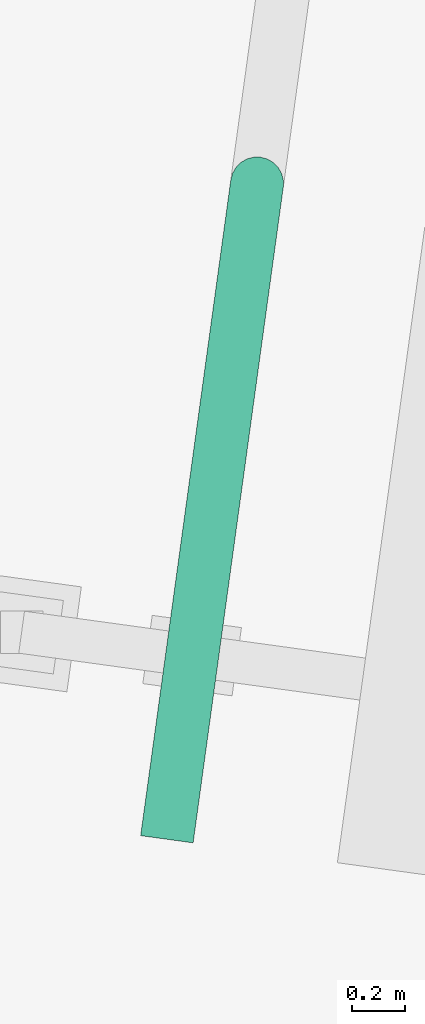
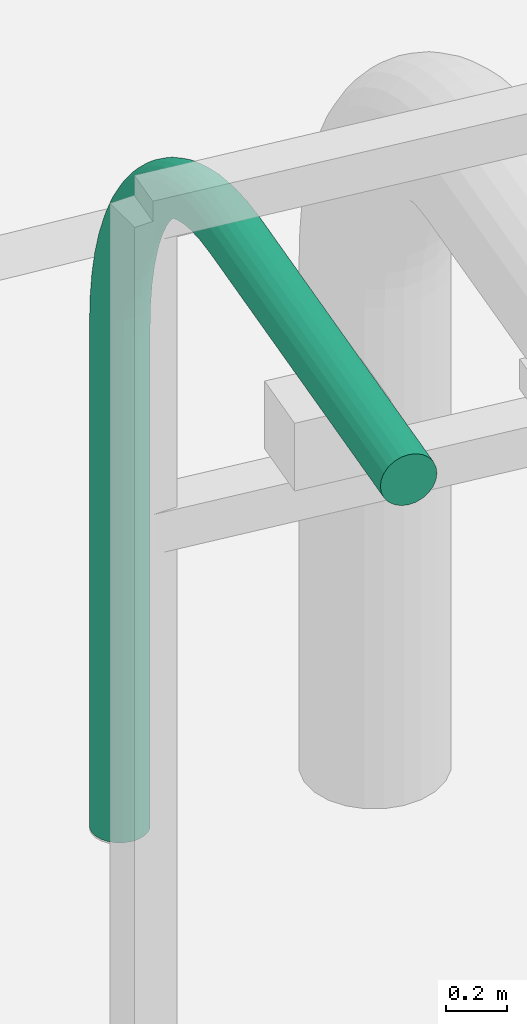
# Not in any storey, part 27 of 75: 1 pipe segment.
"""IFC4 model written with IfcOpenShell, lengths in metres."""

from ifc_helpers import new_model, si_unit, direction, origin, origin_with_axes, place, context, subcontext, project, spatial, triangles, element, save


model = new_model("IFC4")

# Units and contexts
model_context = context("Model", 3, precision=1e-05, world=origin_with_axes(), true_north=direction((0.0, 1.0)))
body_context = subcontext(model_context, "Body", "Model", "MODEL_VIEW")
ifc_project = project(units=[si_unit("AREAUNIT", "SQUARE_METRE"), si_unit("VOLUMEUNIT", "CUBIC_METRE"), si_unit("LENGTHUNIT", "METRE")], contexts=[model_context])

# Site
site_placement = place(None, origin_with_axes())
site = spatial("IfcSite", under=ifc_project, at=site_placement, Name="Parcela industrial Jinhong")

# Pipe segment
pipe_segment_placement = place(None, origin())
element("IfcPipeSegment", 1, at=pipe_segment_placement, inside=site, Name="Nitrógeno Ø 0,2 m · salida exterior", ObjectType="Nitrógeno Ø 0,2 m · salida exterior", PredefinedType="USERDEFINED", context=body_context, shape_type="Tessellation", body=[
    triangles([(51.184012, -13.780024, 0.917728), (51.184161, -13.753919, 0.917728), (51.177549, -13.728665, 0.917728), (51.164626, -13.705983, 0.917728), (51.146273, -13.687418, 0.917728), (51.123741, -13.674236, 0.917728), (51.098564, -13.667335, 0.917728), (51.072459, -13.667186, 0.917728), (51.047205, -13.673798, 0.917728), (51.024523, -13.686721, 0.917728), (51.005958, -13.705074, 0.917728), (50.992777, -13.727606, 0.917728), (50.985876, -13.752783, 0.917728), (50.985726, -13.778888, 0.917728), (50.992338, -13.804142, 0.917728), (51.005261, -13.826824, 0.917728), (51.023614, -13.845389, 0.917728), (51.046147, -13.858571, 0.917728), (51.071323, -13.865471, 0.917728), (51.097428, -13.865621, 0.917728), (51.122682, -13.859009, 0.917728), (51.145364, -13.846086, 0.917728), (51.163929, -13.827733, 0.917728), (51.177111, -13.8052, 0.917728), (51.184012, -13.780024, 2.917728), (51.184161, -13.753919, 2.917788), (51.177549, -13.728665, 2.917843), (51.164626, -13.705983, 2.917891), (51.146273, -13.687418, 2.917927), (51.123741, -13.674236, 2.91795), (51.098564, -13.667336, 2.917958), (51.072459, -13.667186, 2.91795), (51.047205, -13.673798, 2.917927), (51.024523, -13.686721, 2.917891), (51.005958, -13.705074, 2.917843), (50.992777, -13.727606, 2.917788), (50.985876, -13.752783, 2.917728), (50.985726, -13.778888, 2.917669), (50.992338, -13.804142, 2.917614), (51.005261, -13.826824, 2.917566), (51.023614, -13.845388, 2.91753), (51.046147, -13.85857, 2.917507), (51.071323, -13.865471, 2.917499), (51.097428, -13.865621, 2.917507), (51.122682, -13.859009, 2.91753), (51.145364, -13.846086, 2.917566), (51.163929, -13.827733, 2.917614), (51.177111, -13.8052, 2.917669), (51.183356, -13.784794, 3.015746), (51.183489, -13.758813, 3.018282), (51.176861, -13.733674, 3.020646), (51.163924, -13.71109, 3.022676), (51.145561, -13.692602, 3.024234), (51.123021, -13.679467, 3.025213), (51.097843, -13.672583, 3.025547), (51.07174, -13.672417, 3.025213), (51.046493, -13.678981, 3.024234), (51.023821, -13.691828, 3.022676), (51.00527, -13.710083, 3.020646), (50.992104, -13.7325, 3.018282), (50.98522, -13.757553, 3.015746), (50.985087, -13.783535, 3.013209), (50.991715, -13.808674, 3.010845), (51.004651, -13.831257, 3.008815), (51.023015, -13.849746, 3.007257), (51.045554, -13.86288, 3.006278), (51.070733, -13.869765, 3.005944), (51.096836, -13.869931, 3.006278), (51.122083, -13.863366, 3.007257), (51.144755, -13.850519, 3.008815), (51.163306, -13.832265, 3.010845), (51.176472, -13.809847, 3.013209), (51.181395, -13.799059, 3.112819), (51.181476, -13.773447, 3.117868), (51.174801, -13.748652, 3.122573), (51.161824, -13.726364, 3.126614), (51.14343, -13.708102, 3.129714), (51.120871, -13.695111, 3.131663), (51.095685, -13.688275, 3.132328), (51.069589, -13.68806, 3.131663), (51.044362, -13.694482, 3.129714), (51.021721, -13.707102, 3.126614), (51.00321, -13.725061, 3.122573), (50.990092, -13.747135, 3.117868), (50.983259, -13.771819, 3.112819), (50.983177, -13.797431, 3.107769), (50.989852, -13.822226, 3.103064), (51.002829, -13.844514, 3.099024), (51.021224, -13.862776, 3.095923), (51.043782, -13.875768, 3.093974), (51.068968, -13.882604, 3.09331), (51.095064, -13.882818, 3.093974), (51.120292, -13.876396, 3.095923), (51.142932, -13.863776, 3.099024), (51.161443, -13.845817, 3.103064), (51.174562, -13.823743, 3.107769), (51.178147, -13.822682, 3.208013), (51.178145, -13.797681, 3.215526), (51.171391, -13.773456, 3.222527), (51.158347, -13.751658, 3.228539), (51.139901, -13.733771, 3.233153), (51.117309, -13.721015, 3.236052), (51.092113, -13.71426, 3.237042), (51.066028, -13.713965, 3.236052), (51.040832, -13.72015, 3.233153), (51.018243, -13.732395, 3.228539), (50.9998, -13.749865, 3.222527), (50.98676, -13.771369, 3.215526), (50.980011, -13.795441, 3.208013), (50.980013, -13.820442, 3.2005), (50.986766, -13.844667, 3.193499), (50.999811, -13.866466, 3.187487), (51.018257, -13.884353, 3.182874), (51.040848, -13.897108, 3.179974), (51.066045, -13.903864, 3.178985), (51.09213, -13.904159, 3.179974), (51.117325, -13.897973, 3.182874), (51.139914, -13.885728, 3.187487), (51.158357, -13.868258, 3.193499), (51.171398, -13.846755, 3.2005), (51.173644, -13.855435, 3.300412), (51.173525, -13.831282, 3.310316), (51.166663, -13.807847, 3.319546), (51.153525, -13.786726, 3.327472), (51.135008, -13.76936, 3.333553), (51.112371, -13.756931, 3.337376), (51.087159, -13.750288, 3.33868), (51.06109, -13.749881, 3.337376), (51.035939, -13.75574, 3.333553), (51.013422, -13.767464, 3.327472), (50.995072, -13.784255, 3.319546), (50.98214, -13.804969, 3.310316), (50.975508, -13.828194, 3.300412), (50.975627, -13.852347, 3.290507), (50.982489, -13.875782, 3.281278), (50.995626, -13.896903, 3.273352), (51.014144, -13.914269, 3.267271), (51.03678, -13.926698, 3.263447), (51.061992, -13.933341, 3.262144), (51.088062, -13.933748, 3.263447), (51.113212, -13.927889, 3.267271), (51.13573, -13.916165, 3.273352), (51.154079, -13.899374, 3.281278), (51.167011, -13.87866, 3.290507), (51.167929, -13.897002, 3.389125), (51.167662, -13.873925, 3.401326), (51.160662, -13.851492, 3.412695), (51.147406, -13.831233, 3.422458), (51.128798, -13.814527, 3.429949), (51.106104, -13.802514, 3.434659), (51.080873, -13.796011, 3.436265), (51.054823, -13.795463, 3.434659), (51.02973, -13.800907, 3.429949), (51.007303, -13.811971, 3.422458), (50.989072, -13.827901, 3.412695), (50.976277, -13.847612, 3.401326), (50.969793, -13.869761, 3.389125), (50.97006, -13.892839, 3.376925), (50.977059, -13.915271, 3.365555), (50.990315, -13.935531, 3.355792), (51.008924, -13.952236, 3.348301), (51.031617, -13.96425, 3.343592), (51.056849, -13.970752, 3.341985), (51.082899, -13.9713, 3.343592), (51.107992, -13.965857, 3.348301), (51.130419, -13.954793, 3.355792), (51.14865, -13.938862, 3.365555), (51.161444, -13.919151, 3.376925), (51.161057, -13.946984, 3.473299), (51.160613, -13.9252, 3.487678), (51.153447, -13.903973, 3.501077), (51.140049, -13.884748, 3.512583), (51.121331, -13.868837, 3.521412), (51.098569, -13.857323, 3.526963), (51.073314, -13.850991, 3.528856), (51.047288, -13.850273, 3.526963), (51.022263, -13.855217, 3.521412), (50.999945, -13.865486, 3.512583), (50.981856, -13.880382, 3.501077), (50.969228, -13.898887, 3.487678), (50.962921, -13.919743, 3.473299), (50.963366, -13.941526, 3.458919), (50.970531, -13.962754, 3.44552), (50.98393, -13.981978, 3.434014), (51.002647, -13.997889, 3.425185), (51.025409, -14.009403, 3.419635), (51.050664, -14.015735, 3.417742), (51.076691, -14.016454, 3.419635), (51.101716, -14.01151, 3.425185), (51.124033, -14.00124, 3.434014), (51.142122, -13.986345, 3.44552), (51.154751, -13.967839, 3.458919), (51.153095, -14.004898, 3.552122), (51.152444, -13.984613, 3.568541), (51.145087, -13.964783, 3.583841), (51.131523, -13.946758, 3.59698), (51.112679, -13.931767, 3.607062), (51.089838, -13.920832, 3.613399), (51.064556, -13.914697, 3.615561), (51.038556, -13.913781, 3.613399), (51.013611, -13.918147, 3.607062), (50.99142, -13.927496, 3.59698), (50.973496, -13.941192, 3.583841), (50.961059, -13.958301, 3.568541), (50.954959, -13.977657, 3.552122), (50.955609, -13.997942, 3.535702), (50.962967, -14.017772, 3.520402), (50.97653, -14.035797, 3.507263), (50.995375, -14.050788, 3.497182), (51.018216, -14.061724, 3.490844), (51.043498, -14.067858, 3.488682), (51.069498, -14.068774, 3.490844), (51.094443, -14.064409, 3.497182), (51.116634, -14.055059, 3.507263), (51.134558, -14.041364, 3.520402), (51.146994, -14.024254, 3.535702), (51.144119, -14.070187, 3.624835), (51.143236, -14.051593, 3.643136), (51.135662, -14.033337, 3.660191), (51.121912, -14.016664, 3.674835), (51.102925, -14.002711, 3.686072), (51.079994, -13.992428, 3.693136), (51.054682, -13.986515, 3.695546), (51.028713, -13.985377, 3.693136), (51.003857, -13.98909, 3.686072), (50.981809, -13.997402, 3.674835), (50.964071, -14.009746, 3.660191), (50.951851, -14.02528, 3.643136), (50.945982, -14.042947, 3.624835), (50.946865, -14.061542, 3.606534), (50.95444, -14.079797, 3.58948), (50.968189, -14.09647, 3.574835), (50.987176, -14.110423, 3.563598), (51.010107, -14.120707, 3.556534), (51.035419, -14.126619, 3.554125), (51.061388, -14.127757, 3.556534), (51.086244, -14.124044, 3.563598), (51.108292, -14.115732, 3.574835), (51.12603, -14.103389, 3.58948), (51.13825, -14.087854, 3.606534), (51.134215, -14.142223, 3.690739), (51.133075, -14.125493, 3.710746), (51.125262, -14.108974, 3.729389), (51.111308, -14.093794, 3.745399), (51.092164, -14.080985, 3.757684), (51.069134, -14.071422, 3.765406), (51.043787, -14.065755, 3.76804), (51.017852, -14.064371, 3.765406), (50.993096, -14.067365, 3.757684), (50.971205, -14.074532, 3.745399), (50.953672, -14.085383, 3.729389), (50.941691, -14.09918, 3.710746), (50.936079, -14.114983, 3.690739), (50.937218, -14.131713, 3.670732), (50.945031, -14.148231, 3.652088), (50.958985, -14.163412, 3.636079), (50.97813, -14.176221, 3.623794), (51.00116, -14.185784, 3.616072), (51.026506, -14.191451, 3.613438), (51.052441, -14.192835, 3.616072), (51.077198, -14.189841, 3.623794), (51.099088, -14.182674, 3.636079), (51.116622, -14.171823, 3.652088), (51.128603, -14.158026, 3.670732), (51.123479, -14.220312, 3.749198), (51.122062, -14.205603, 3.770718), (51.11399, -14.190967, 3.790772), (51.099813, -14.177404, 3.807992), (51.080498, -14.165836, 3.821205), (51.057361, -14.157053, 3.829512), (51.031978, -14.151652, 3.832345), (51.006079, -14.150002, 3.829512), (50.98143, -14.152216, 3.821205), (50.95971, -14.158142, 3.807992), (50.942399, -14.167376, 3.790772), (50.930677, -14.17929, 3.770718), (50.925343, -14.193071, 3.749198), (50.92676, -14.20778, 3.727678), (50.934832, -14.222415, 3.707625), (50.949008, -14.235979, 3.690404), (50.968323, -14.247547, 3.677191), (50.991461, -14.25633, 3.668884), (51.016844, -14.261731, 3.666051), (51.042742, -14.263381, 3.668884), (51.067391, -14.261167, 3.677191), (51.089112, -14.255241, 3.690404), (51.106423, -14.246007, 3.707625), (51.118145, -14.234093, 3.727678), (51.112014, -14.303701, 3.79965), (51.1103, -14.29115, 3.822476), (51.101952, -14.278526, 3.843746), (51.087538, -14.266689, 3.862011), (51.06804, -14.256447, 3.876026), (51.044788, -14.248497, 3.884837), (51.019367, -14.24338, 3.887842), (50.993507, -14.241446, 3.884837), (50.968972, -14.242827, 3.876026), (50.947434, -14.247427, 3.862011), (50.930361, -14.254935, 3.843746), (50.918915, -14.264837, 3.822476), (50.913878, -14.27646, 3.79965), (50.915592, -14.289011, 3.776824), (50.92394, -14.301635, 3.755554), (50.938354, -14.313472, 3.737288), (50.957851, -14.323714, 3.723273), (50.981103, -14.331664, 3.714463), (51.006525, -14.336781, 3.711458), (51.032385, -14.338715, 3.714463), (51.05692, -14.337334, 3.723273), (51.078458, -14.332734, 3.737288), (51.095531, -14.325226, 3.755554), (51.106977, -14.315324, 3.776824), (51.099931, -14.391587, 3.841608), (51.097904, -14.381311, 3.86552), (51.089264, -14.370807, 3.887802), (51.0746, -14.360791, 3.906936), (51.054911, -14.351945, 3.921618), (51.031538, -14.344872, 3.930848), (51.006075, -14.340055, 3.933996), (50.980257, -14.337822, 3.930848), (50.955843, -14.338324, 3.921618), (50.934497, -14.341528, 3.906936), (50.917673, -14.347216, 3.887802), (50.906519, -14.354999, 3.86552), (50.901795, -14.364347, 3.841608), (50.903821, -14.374623, 3.817696), (50.912461, -14.385127, 3.795414), (50.927125, -14.395144, 3.77628), (50.946815, -14.403989, 3.761598), (50.970187, -14.411062, 3.752368), (50.995651, -14.415879, 3.74922), (51.021469, -14.418112, 3.752368), (51.045883, -14.41761, 3.761598), (51.067229, -14.414406, 3.77628), (51.084052, -14.408719, 3.795414), (51.095206, -14.400936, 3.817696), (51.087346, -14.483125, 3.874669), (51.084993, -14.475218, 3.899436), (51.07605, -14.466921, 3.922516), (51.061125, -14.458801, 3.942335), (51.041236, -14.45141, 3.957542), (51.017738, -14.445252, 3.967102), (50.992232, -14.440747, 3.970363), (50.966456, -14.438201, 3.967102), (50.942168, -14.437789, 3.957542), (50.921022, -14.439539, 3.942335), (50.904459, -14.44333, 3.922516), (50.893609, -14.448905, 3.899436), (50.88921, -14.455884, 3.874669), (50.891562, -14.463792, 3.849901), (50.900505, -14.472088, 3.826822), (50.91543, -14.480209, 3.807003), (50.93532, -14.4876, 3.791795), (50.958818, -14.493758, 3.782235), (50.984324, -14.498263, 3.778975), (51.010099, -14.500808, 3.782235), (51.034388, -14.50122, 3.791795), (51.055534, -14.499471, 3.807003), (51.072096, -14.495679, 3.826822), (51.082947, -14.490104, 3.849901), (51.07438, -14.577432, 3.898514), (51.071692, -14.571966, 3.923898), (51.062436, -14.565944, 3.947553), (51.047243, -14.559777, 3.967866), (51.027147, -14.553884, 3.983452), (51.003519, -14.548669, 3.99325), (50.977969, -14.544485, 3.996592), (50.952238, -14.541618, 3.99325), (50.928079, -14.540264, 3.983452), (50.907139, -14.540514, 3.967866), (50.890845, -14.542353, 3.947553), (50.880307, -14.545653, 3.923898), (50.876244, -14.550192, 3.898514), (50.878932, -14.555658, 3.873129), (50.888188, -14.56168, 3.849474), (50.903381, -14.567847, 3.829162), (50.923477, -14.57374, 3.813575), (50.947105, -14.578955, 3.803777), (50.972655, -14.583139, 3.800435), (50.998386, -14.586006, 3.803777), (51.022545, -14.58736, 3.813575), (51.043485, -14.587109, 3.829162), (51.059779, -14.585271, 3.849474), (51.070317, -14.581971, 3.873129), (51.061158, -14.673601, 3.912913), (51.058128, -14.670624, 3.93867), (51.048553, -14.666921, 3.962672), (51.033086, -14.662745, 3.983283), (51.01278, -14.658381, 3.999099), (50.98902, -14.654126, 4.009041), (50.963425, -14.65027, 4.012432), (50.937739, -14.647076, 4.009041), (50.913712, -14.644761, 3.999099), (50.892982, -14.643483, 3.983283), (50.876962, -14.64333, 3.962672), (50.866743, -14.644311, 3.93867), (50.863022, -14.64636, 3.912913), (50.866052, -14.649337, 3.887156), (50.875627, -14.65304, 3.863154), (50.891094, -14.657216, 3.842543), (50.9114, -14.66158, 3.826728), (50.93516, -14.665835, 3.816786), (50.960755, -14.669691, 3.813395), (50.986441, -14.672885, 3.816786), (51.010468, -14.6752, 3.826728), (51.031198, -14.676478, 3.842543), (51.047218, -14.676631, 3.863154), (51.057437, -14.67565, 3.887156), (51.047808, -14.770705, 3.917728), (51.044443, -14.770163, 3.94361), (51.034556, -14.768731, 3.967728), (51.018821, -14.766504, 3.988439), (50.998309, -14.763636, 4.004331), (50.97442, -14.760321, 4.014321), (50.948781, -14.756786, 4.017728), (50.923139, -14.753271, 4.014321), (50.899241, -14.750016, 4.004331), (50.878717, -14.747242, 3.988439), (50.862965, -14.745139, 3.967728), (50.853058, -14.743851, 3.94361), (50.849672, -14.743464, 3.917728), (50.853037, -14.744005, 3.891847), (50.862924, -14.745438, 3.867729), (50.878659, -14.747664, 3.847018), (50.89917, -14.750533, 3.831126), (50.923059, -14.753847, 3.821136), (50.948699, -14.757383, 3.817729), (50.974341, -14.760898, 3.821136), (50.998238, -14.764153, 3.831126), (51.018763, -14.766926, 3.847018), (51.034515, -14.769029, 3.867729), (51.044422, -14.770318, 3.891847), (50.843502, -16.256726, 3.917728), (50.840126, -16.256262, 3.94361), (50.83023, -16.254901, 3.967728), (50.814486, -16.252737, 3.988439), (50.793968, -16.249916, 4.004331), (50.770075, -16.246631, 4.014321), (50.744434, -16.243105, 4.017728), (50.718793, -16.23958, 4.014321), (50.6949, -16.236295, 4.004331), (50.674382, -16.233474, 3.988439), (50.658639, -16.23131, 3.967728), (50.648742, -16.229949, 3.94361), (50.645366, -16.229485, 3.917728), (50.648742, -16.229949, 3.891847), (50.658639, -16.23131, 3.867728), (50.674382, -16.233474, 3.847018), (50.6949, -16.236295, 3.831126), (50.718793, -16.23958, 3.821136), (50.744434, -16.243105, 3.817728), (50.770075, -16.246631, 3.821136), (50.793968, -16.249916, 3.831126), (50.814486, -16.252737, 3.847018), (50.83023, -16.254901, 3.867728), (50.840126, -16.256262, 3.891847), (51.084944, -13.766403, 0.917728), (50.744434, -16.243105, 3.917728)], [[1, 2, 26], [1, 26, 25], [2, 3, 27], [2, 27, 26], [3, 4, 28], [3, 28, 27], [4, 5, 29], [4, 29, 28], [5, 6, 30], [5, 30, 29], [6, 7, 31], [6, 31, 30], [7, 8, 32], [7, 32, 31], [8, 9, 33], [8, 33, 32], [9, 10, 34], [9, 34, 33], [10, 11, 35], [10, 35, 34], [11, 12, 36], [11, 36, 35], [12, 13, 37], [12, 37, 36], [13, 14, 38], [13, 38, 37], [14, 15, 39], [14, 39, 38], [15, 16, 40], [15, 40, 39], [16, 17, 41], [16, 41, 40], [17, 18, 42], [17, 42, 41], [18, 19, 43], [18, 43, 42], [19, 20, 44], [19, 44, 43], [20, 21, 45], [20, 45, 44], [21, 22, 46], [21, 46, 45], [22, 23, 47], [22, 47, 46], [23, 24, 48], [23, 48, 47], [24, 1, 25], [24, 25, 48], [25, 26, 50], [25, 50, 49], [26, 27, 51], [26, 51, 50], [27, 28, 52], [27, 52, 51], [28, 29, 53], [28, 53, 52], [29, 30, 54], [29, 54, 53], [30, 31, 55], [30, 55, 54], [31, 32, 56], [31, 56, 55], [32, 33, 57], [32, 57, 56], [33, 34, 58], [33, 58, 57], [34, 35, 59], [34, 59, 58], [35, 36, 60], [35, 60, 59], [36, 37, 61], [36, 61, 60], [37, 38, 62], [37, 62, 61], [38, 39, 63], [38, 63, 62], [39, 40, 64], [39, 64, 63], [40, 41, 65], [40, 65, 64], [41, 42, 66], [41, 66, 65], [42, 43, 67], [42, 67, 66], [43, 44, 68], [43, 68, 67], [44, 45, 69], [44, 69, 68], [45, 46, 70], [45, 70, 69], [46, 47, 71], [46, 71, 70], [47, 48, 72], [47, 72, 71], [48, 25, 49], [48, 49, 72], [49, 50, 74], [49, 74, 73], [50, 51, 75], [50, 75, 74], [51, 52, 76], [51, 76, 75], [52, 53, 77], [52, 77, 76], [53, 54, 78], [53, 78, 77], [54, 55, 79], [54, 79, 78], [55, 56, 80], [55, 80, 79], [56, 57, 81], [56, 81, 80], [57, 58, 82], [57, 82, 81], [58, 59, 83], [58, 83, 82], [59, 60, 84], [59, 84, 83], [60, 61, 85], [60, 85, 84], [61, 62, 86], [61, 86, 85], [62, 63, 87], [62, 87, 86], [63, 64, 88], [63, 88, 87], [64, 65, 89], [64, 89, 88], [65, 66, 90], [65, 90, 89], [66, 67, 91], [66, 91, 90], [67, 68, 92], [67, 92, 91], [68, 69, 93], [68, 93, 92], [69, 70, 94], [69, 94, 93], [70, 71, 95], [70, 95, 94], [71, 72, 96], [71, 96, 95], [72, 49, 73], [72, 73, 96], [73, 74, 98], [73, 98, 97], [74, 75, 99], [74, 99, 98], [75, 76, 100], [75, 100, 99], [76, 77, 101], [76, 101, 100], [77, 78, 102], [77, 102, 101], [78, 79, 103], [78, 103, 102], [79, 80, 104], [79, 104, 103], [80, 81, 105], [80, 105, 104], [81, 82, 106], [81, 106, 105], [82, 83, 107], [82, 107, 106], [83, 84, 108], [83, 108, 107], [84, 85, 109], [84, 109, 108], [85, 86, 110], [85, 110, 109], [86, 87, 111], [86, 111, 110], [87, 88, 112], [87, 112, 111], [88, 89, 113], [88, 113, 112], [89, 90, 114], [89, 114, 113], [90, 91, 115], [90, 115, 114], [91, 92, 116], [91, 116, 115], [92, 93, 117], [92, 117, 116], [93, 94, 118], [93, 118, 117], [94, 95, 119], [94, 119, 118], [95, 96, 120], [95, 120, 119], [96, 73, 97], [96, 97, 120], [97, 98, 122], [97, 122, 121], [98, 99, 123], [98, 123, 122], [99, 100, 124], [99, 124, 123], [100, 101, 125], [100, 125, 124], [101, 102, 126], [101, 126, 125], [102, 103, 127], [102, 127, 126], [103, 104, 128], [103, 128, 127], [104, 105, 129], [104, 129, 128], [105, 106, 130], [105, 130, 129], [106, 107, 131], [106, 131, 130], [107, 108, 132], [107, 132, 131], [108, 109, 133], [108, 133, 132], [109, 110, 134], [109, 134, 133], [110, 111, 135], [110, 135, 134], [111, 112, 136], [111, 136, 135], [112, 113, 137], [112, 137, 136], [113, 114, 138], [113, 138, 137], [114, 115, 139], [114, 139, 138], [115, 116, 140], [115, 140, 139], [116, 117, 141], [116, 141, 140], [117, 118, 142], [117, 142, 141], [118, 119, 143], [118, 143, 142], [119, 120, 144], [119, 144, 143], [120, 97, 121], [120, 121, 144], [121, 122, 146], [121, 146, 145], [122, 123, 147], [122, 147, 146], [123, 124, 148], [123, 148, 147], [124, 125, 149], [124, 149, 148], [125, 126, 150], [125, 150, 149], [126, 127, 151], [126, 151, 150], [127, 128, 152], [127, 152, 151], [128, 129, 153], [128, 153, 152], [129, 130, 154], [129, 154, 153], [130, 131, 155], [130, 155, 154], [131, 132, 156], [131, 156, 155], [132, 133, 157], [132, 157, 156], [133, 134, 158], [133, 158, 157], [134, 135, 159], [134, 159, 158], [135, 136, 160], [135, 160, 159], [136, 137, 161], [136, 161, 160], [137, 138, 162], [137, 162, 161], [138, 139, 163], [138, 163, 162], [139, 140, 164], [139, 164, 163], [140, 141, 165], [140, 165, 164], [141, 142, 166], [141, 166, 165], [142, 143, 167], [142, 167, 166], [143, 144, 168], [143, 168, 167], [144, 121, 145], [144, 145, 168], [145, 146, 170], [145, 170, 169], [146, 147, 171], [146, 171, 170], [147, 148, 172], [147, 172, 171], [148, 149, 173], [148, 173, 172], [149, 150, 174], [149, 174, 173], [150, 151, 175], [150, 175, 174], [151, 152, 176], [151, 176, 175], [152, 153, 177], [152, 177, 176], [153, 154, 178], [153, 178, 177], [154, 155, 179], [154, 179, 178], [155, 156, 180], [155, 180, 179], [156, 157, 181], [156, 181, 180], [157, 158, 182], [157, 182, 181], [158, 159, 183], [158, 183, 182], [159, 160, 184], [159, 184, 183], [160, 161, 185], [160, 185, 184], [161, 162, 186], [161, 186, 185], [162, 163, 187], [162, 187, 186], [163, 164, 188], [163, 188, 187], [164, 165, 189], [164, 189, 188], [165, 166, 190], [165, 190, 189], [166, 167, 191], [166, 191, 190], [167, 168, 192], [167, 192, 191], [168, 145, 169], [168, 169, 192], [169, 170, 194], [169, 194, 193], [170, 171, 195], [170, 195, 194], [171, 172, 196], [171, 196, 195], [172, 173, 197], [172, 197, 196], [173, 174, 198], [173, 198, 197], [174, 175, 199], [174, 199, 198], [175, 176, 200], [175, 200, 199], [176, 177, 201], [176, 201, 200], [177, 178, 202], [177, 202, 201], [178, 179, 203], [178, 203, 202], [179, 180, 204], [179, 204, 203], [180, 181, 205], [180, 205, 204], [181, 182, 206], [181, 206, 205], [182, 183, 207], [182, 207, 206], [183, 184, 208], [183, 208, 207], [184, 185, 209], [184, 209, 208], [185, 186, 210], [185, 210, 209], [186, 187, 211], [186, 211, 210], [187, 188, 212], [187, 212, 211], [188, 189, 213], [188, 213, 212], [189, 190, 214], [189, 214, 213], [190, 191, 215], [190, 215, 214], [191, 192, 216], [191, 216, 215], [192, 169, 193], [192, 193, 216], [193, 194, 218], [193, 218, 217], [194, 195, 219], [194, 219, 218], [195, 196, 220], [195, 220, 219], [196, 197, 221], [196, 221, 220], [197, 198, 222], [197, 222, 221], [198, 199, 223], [198, 223, 222], [199, 200, 224], [199, 224, 223], [200, 201, 225], [200, 225, 224], [201, 202, 226], [201, 226, 225], [202, 203, 227], [202, 227, 226], [203, 204, 228], [203, 228, 227], [204, 205, 229], [204, 229, 228], [205, 206, 230], [205, 230, 229], [206, 207, 231], [206, 231, 230], [207, 208, 232], [207, 232, 231], [208, 209, 233], [208, 233, 232], [209, 210, 234], [209, 234, 233], [210, 211, 235], [210, 235, 234], [211, 212, 236], [211, 236, 235], [212, 213, 237], [212, 237, 236], [213, 214, 238], [213, 238, 237], [214, 215, 239], [214, 239, 238], [215, 216, 240], [215, 240, 239], [216, 193, 217], [216, 217, 240], [217, 218, 242], [217, 242, 241], [218, 219, 243], [218, 243, 242], [219, 220, 244], [219, 244, 243], [220, 221, 245], [220, 245, 244], [221, 222, 246], [221, 246, 245], [222, 223, 247], [222, 247, 246], [223, 224, 248], [223, 248, 247], [224, 225, 249], [224, 249, 248], [225, 226, 250], [225, 250, 249], [226, 227, 251], [226, 251, 250], [227, 228, 252], [227, 252, 251], [228, 229, 253], [228, 253, 252], [229, 230, 254], [229, 254, 253], [230, 231, 255], [230, 255, 254], [231, 232, 256], [231, 256, 255], [232, 233, 257], [232, 257, 256], [233, 234, 258], [233, 258, 257], [234, 235, 259], [234, 259, 258], [235, 236, 260], [235, 260, 259], [236, 237, 261], [236, 261, 260], [237, 238, 262], [237, 262, 261], [238, 239, 263], [238, 263, 262], [239, 240, 264], [239, 264, 263], [240, 217, 241], [240, 241, 264], [241, 242, 266], [241, 266, 265], [242, 243, 267], [242, 267, 266], [243, 244, 268], [243, 268, 267], [244, 245, 269], [244, 269, 268], [245, 246, 270], [245, 270, 269], [246, 247, 271], [246, 271, 270], [247, 248, 272], [247, 272, 271], [248, 249, 273], [248, 273, 272], [249, 250, 274], [249, 274, 273], [250, 251, 275], [250, 275, 274], [251, 252, 276], [251, 276, 275], [252, 253, 277], [252, 277, 276], [253, 254, 278], [253, 278, 277], [254, 255, 279], [254, 279, 278], [255, 256, 280], [255, 280, 279], [256, 257, 281], [256, 281, 280], [257, 258, 282], [257, 282, 281], [258, 259, 283], [258, 283, 282], [259, 260, 284], [259, 284, 283], [260, 261, 285], [260, 285, 284], [261, 262, 286], [261, 286, 285], [262, 263, 287], [262, 287, 286], [263, 264, 288], [263, 288, 287], [264, 241, 265], [264, 265, 288], [265, 266, 290], [265, 290, 289], [266, 267, 291], [266, 291, 290], [267, 268, 292], [267, 292, 291], [268, 269, 293], [268, 293, 292], [269, 270, 294], [269, 294, 293], [270, 271, 295], [270, 295, 294], [271, 272, 296], [271, 296, 295], [272, 273, 297], [272, 297, 296], [273, 274, 298], [273, 298, 297], [274, 275, 299], [274, 299, 298], [275, 276, 300], [275, 300, 299], [276, 277, 301], [276, 301, 300], [277, 278, 302], [277, 302, 301], [278, 279, 303], [278, 303, 302], [279, 280, 304], [279, 304, 303], [280, 281, 305], [280, 305, 304], [281, 282, 306], [281, 306, 305], [282, 283, 307], [282, 307, 306], [283, 284, 308], [283, 308, 307], [284, 285, 309], [284, 309, 308], [285, 286, 310], [285, 310, 309], [286, 287, 311], [286, 311, 310], [287, 288, 312], [287, 312, 311], [288, 265, 289], [288, 289, 312], [289, 290, 314], [289, 314, 313], [290, 291, 315], [290, 315, 314], [291, 292, 316], [291, 316, 315], [292, 293, 317], [292, 317, 316], [293, 294, 318], [293, 318, 317], [294, 295, 319], [294, 319, 318], [295, 296, 320], [295, 320, 319], [296, 297, 321], [296, 321, 320], [297, 298, 322], [297, 322, 321], [298, 299, 323], [298, 323, 322], [299, 300, 324], [299, 324, 323], [300, 301, 325], [300, 325, 324], [301, 302, 326], [301, 326, 325], [302, 303, 327], [302, 327, 326], [303, 304, 328], [303, 328, 327], [304, 305, 329], [304, 329, 328], [305, 306, 330], [305, 330, 329], [306, 307, 331], [306, 331, 330], [307, 308, 332], [307, 332, 331], [308, 309, 333], [308, 333, 332], [309, 310, 334], [309, 334, 333], [310, 311, 335], [310, 335, 334], [311, 312, 336], [311, 336, 335], [312, 289, 313], [312, 313, 336], [313, 314, 338], [313, 338, 337], [314, 315, 339], [314, 339, 338], [315, 316, 340], [315, 340, 339], [316, 317, 341], [316, 341, 340], [317, 318, 342], [317, 342, 341], [318, 319, 343], [318, 343, 342], [319, 320, 344], [319, 344, 343], [320, 321, 345], [320, 345, 344], [321, 322, 346], [321, 346, 345], [322, 323, 347], [322, 347, 346], [323, 324, 348], [323, 348, 347], [324, 325, 349], [324, 349, 348], [325, 326, 350], [325, 350, 349], [326, 327, 351], [326, 351, 350], [327, 328, 352], [327, 352, 351], [328, 329, 353], [328, 353, 352], [329, 330, 354], [329, 354, 353], [330, 331, 355], [330, 355, 354], [331, 332, 356], [331, 356, 355], [332, 333, 357], [332, 357, 356], [333, 334, 358], [333, 358, 357], [334, 335, 359], [334, 359, 358], [335, 336, 360], [335, 360, 359], [336, 313, 337], [336, 337, 360], [337, 338, 362], [337, 362, 361], [338, 339, 363], [338, 363, 362], [339, 340, 364], [339, 364, 363], [340, 341, 365], [340, 365, 364], [341, 342, 366], [341, 366, 365], [342, 343, 367], [342, 367, 366], [343, 344, 368], [343, 368, 367], [344, 345, 369], [344, 369, 368], [345, 346, 370], [345, 370, 369], [346, 347, 371], [346, 371, 370], [347, 348, 372], [347, 372, 371], [348, 349, 373], [348, 373, 372], [349, 350, 374], [349, 374, 373], [350, 351, 375], [350, 375, 374], [351, 352, 376], [351, 376, 375], [352, 353, 377], [352, 377, 376], [353, 354, 378], [353, 378, 377], [354, 355, 379], [354, 379, 378], [355, 356, 380], [355, 380, 379], [356, 357, 381], [356, 381, 380], [357, 358, 382], [357, 382, 381], [358, 359, 383], [358, 383, 382], [359, 360, 384], [359, 384, 383], [360, 337, 361], [360, 361, 384], [361, 362, 386], [361, 386, 385], [362, 363, 387], [362, 387, 386], [363, 364, 388], [363, 388, 387], [364, 365, 389], [364, 389, 388], [365, 366, 390], [365, 390, 389], [366, 367, 391], [366, 391, 390], [367, 368, 392], [367, 392, 391], [368, 369, 393], [368, 393, 392], [369, 370, 394], [369, 394, 393], [370, 371, 395], [370, 395, 394], [371, 372, 396], [371, 396, 395], [372, 373, 397], [372, 397, 396], [373, 374, 398], [373, 398, 397], [374, 375, 399], [374, 399, 398], [375, 376, 400], [375, 400, 399], [376, 377, 401], [376, 401, 400], [377, 378, 402], [377, 402, 401], [378, 379, 403], [378, 403, 402], [379, 380, 404], [379, 404, 403], [380, 381, 405], [380, 405, 404], [381, 382, 406], [381, 406, 405], [382, 383, 407], [382, 407, 406], [383, 384, 408], [383, 408, 407], [384, 361, 385], [384, 385, 408], [385, 386, 410], [385, 410, 409], [386, 387, 411], [386, 411, 410], [387, 388, 412], [387, 412, 411], [388, 389, 413], [388, 413, 412], [389, 390, 414], [389, 414, 413], [390, 391, 415], [390, 415, 414], [391, 392, 416], [391, 416, 415], [392, 393, 417], [392, 417, 416], [393, 394, 418], [393, 418, 417], [394, 395, 419], [394, 419, 418], [395, 396, 420], [395, 420, 419], [396, 397, 421], [396, 421, 420], [397, 398, 422], [397, 422, 421], [398, 399, 423], [398, 423, 422], [399, 400, 424], [399, 424, 423], [400, 401, 425], [400, 425, 424], [401, 402, 426], [401, 426, 425], [402, 403, 427], [402, 427, 426], [403, 404, 428], [403, 428, 427], [404, 405, 429], [404, 429, 428], [405, 406, 430], [405, 430, 429], [406, 407, 431], [406, 431, 430], [407, 408, 432], [407, 432, 431], [408, 385, 409], [408, 409, 432], [409, 410, 434], [409, 434, 433], [410, 411, 435], [410, 435, 434], [411, 412, 436], [411, 436, 435], [412, 413, 437], [412, 437, 436], [413, 414, 438], [413, 438, 437], [414, 415, 439], [414, 439, 438], [415, 416, 440], [415, 440, 439], [416, 417, 441], [416, 441, 440], [417, 418, 442], [417, 442, 441], [418, 419, 443], [418, 443, 442], [419, 420, 444], [419, 444, 443], [420, 421, 445], [420, 445, 444], [421, 422, 446], [421, 446, 445], [422, 423, 447], [422, 447, 446], [423, 424, 448], [423, 448, 447], [424, 425, 449], [424, 449, 448], [425, 426, 450], [425, 450, 449], [426, 427, 451], [426, 451, 450], [427, 428, 452], [427, 452, 451], [428, 429, 453], [428, 453, 452], [429, 430, 454], [429, 454, 453], [430, 431, 455], [430, 455, 454], [431, 432, 456], [431, 456, 455], [432, 409, 433], [432, 433, 456], [457, 2, 1], [458, 433, 434], [457, 3, 2], [458, 434, 435], [457, 4, 3], [458, 435, 436], [457, 5, 4], [458, 436, 437], [457, 6, 5], [458, 437, 438], [457, 7, 6], [458, 438, 439], [457, 8, 7], [458, 439, 440], [457, 9, 8], [458, 440, 441], [457, 10, 9], [458, 441, 442], [457, 11, 10], [458, 442, 443], [457, 12, 11], [458, 443, 444], [457, 13, 12], [458, 444, 445], [457, 14, 13], [458, 445, 446], [457, 15, 14], [458, 446, 447], [457, 16, 15], [458, 447, 448], [457, 17, 16], [458, 448, 449], [457, 18, 17], [458, 449, 450], [457, 19, 18], [458, 450, 451], [457, 20, 19], [458, 451, 452], [457, 21, 20], [458, 452, 453], [457, 22, 21], [458, 453, 454], [457, 23, 22], [458, 454, 455], [457, 24, 23], [458, 455, 456], [457, 1, 24], [458, 456, 433]], closed=True),
])

save(model, "model.ifc")
